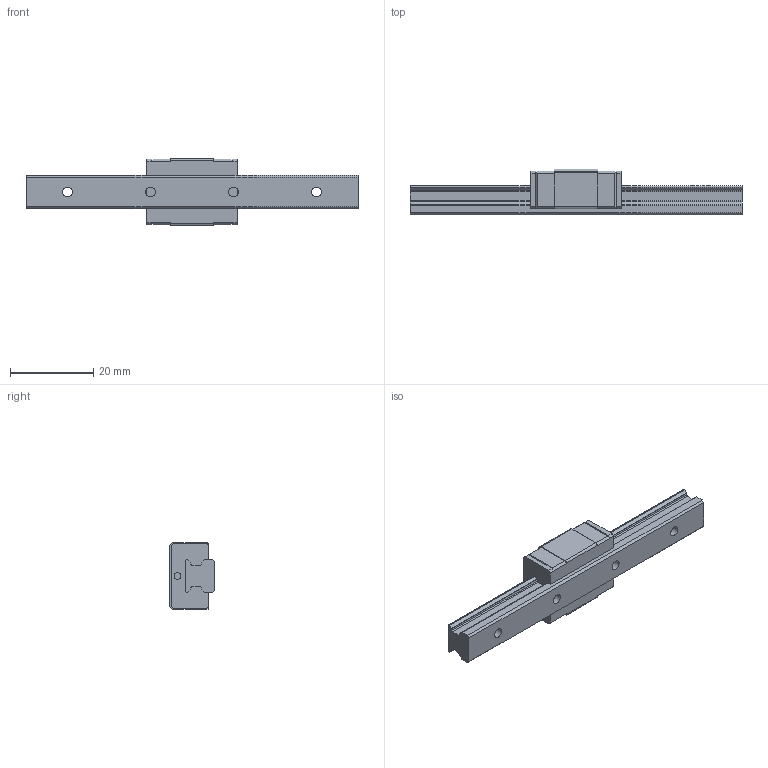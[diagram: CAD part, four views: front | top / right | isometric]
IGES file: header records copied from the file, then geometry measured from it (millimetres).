
Start section: Data from Parasolid IGES Translator 26.0.171, Copyright(c) 2006 Siemens PLM Software. All Rights Reserved.
Global section: file name: HRG8SRM1UU-80LHM_G10_0_Without_grease_nipple_29-15_0_0_01.igs; native system: By Siemens PLM Incorporated; preprocessor: XPlus GENERIC/IGES 26.0.171; author: Noname; organization: Noname; date: 20240523.112229; units: millimetre
Bounding box: 80 x 11 x 16 mm (x, y, z)
Surface area: 4561.5 mm2 (no closed solid volume)
Topology: 0 solids, 0 shells, 137 faces, 756 edges, 734 vertices
Faces by surface type: extrusion 87, revolution 50
